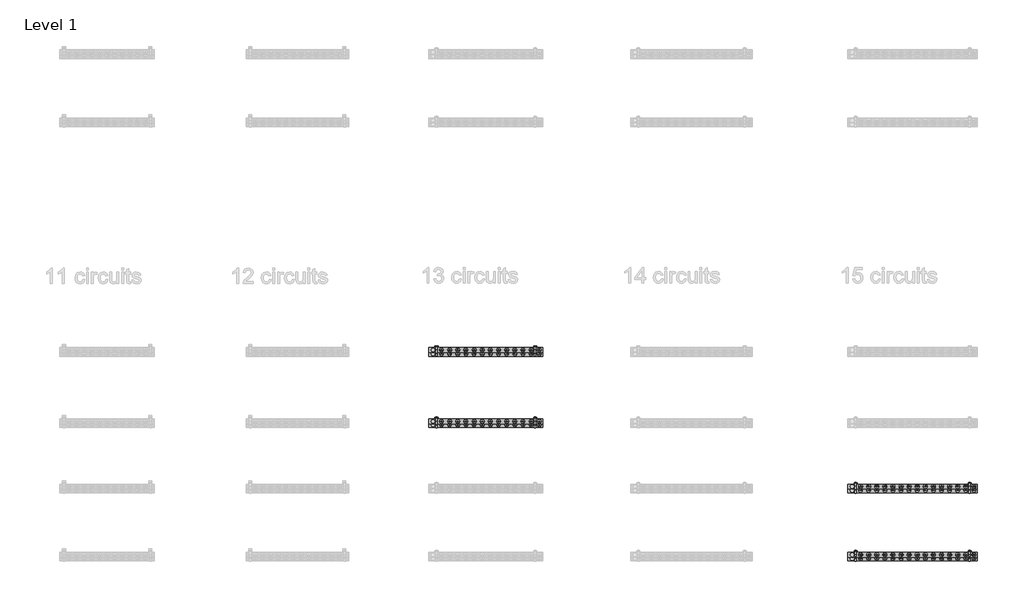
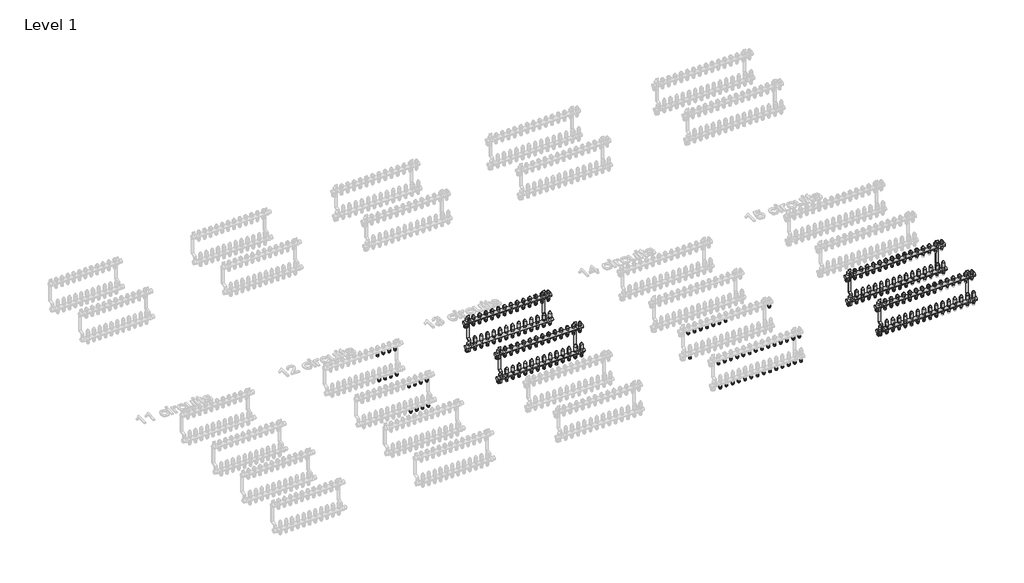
# One storey, part 6 of 23: 141 pipe fittings, 4 valves.
"""IFC4 building model written with IfcOpenShell, lengths in millimetres."""

from ifc_helpers import new_model, si_unit, origin, place, context, project, spatial, transform, mapped, element, save
from components import pipe_fitting_03c6499f, valve_cb73cf64, valve_9b29a5eb, valve_b9f81a7f, valve_96d576d6, valve_c563ffe1, valve_e7cc262d, valve_94d66b99, valve_c404d8d8

model = new_model("IFC4")

# Units and contexts
model_context = context("Model", 3, world=origin())
ifc_project = project(units=[si_unit("LENGTHUNIT", "METRE", prefix="MILLI")], contexts=[model_context])

# Site, building, storey
site = spatial("IfcSite", under=ifc_project)
building = spatial("IfcBuilding", under=site)
storey = spatial("IfcBuildingStorey", under=building, Name="Level 1", Elevation=0.0)

# Pipe fittings
placement = place(None, origin())
pipe_fitting_shape = pipe_fitting_03c6499f(model_context)
element("IfcPipeFitting", 1, ObjectType="Euroconus screwing for multilayer pipes - Manifold FT : Euroconus screwing for multilayer pipes - Manifold FT", at=placement, inside=storey, context=model_context, shape_type="MappedRepresentation", body=[
    mapped(pipe_fitting_shape, transform((12125.7069589, -1164.6959314, 62.88733), x_axis=(0.0, 0.0, -1.0), y_axis=(0.0, 1.0000000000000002, 0.0), z_axis=(1.0000000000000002, 0.0, 0.0))),
])
element("IfcPipeFitting", 2, ObjectType="Euroconus screwing for multilayer pipes - Manifold FT : Euroconus screwing for multilayer pipes - Manifold FT", at=placement, inside=storey, context=model_context, shape_type="MappedRepresentation", body=[
    mapped(pipe_fitting_shape, transform((12076.4342316, -1164.6959314, 62.88733), x_axis=(0.0, 0.0, -1.0), y_axis=(0.0, 1.0000000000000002, 0.0), z_axis=(1.0000000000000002, 0.0, 0.0))),
])
element("IfcPipeFitting", 3, ObjectType="Euroconus screwing for multilayer pipes - Manifold FT : Euroconus screwing for multilayer pipes - Manifold FT", at=placement, inside=storey, context=model_context, shape_type="MappedRepresentation", body=[
    mapped(pipe_fitting_shape, transform((12027.1615043, -1164.6959314, 62.88733), x_axis=(0.0, 0.0, -1.0), y_axis=(0.0, 1.0000000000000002, 0.0), z_axis=(1.0000000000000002, 0.0, 0.0))),
])
element("IfcPipeFitting", 4, ObjectType="Euroconus screwing for multilayer pipes - Manifold FT : Euroconus screwing for multilayer pipes - Manifold FT", at=placement, inside=storey, context=model_context, shape_type="MappedRepresentation", body=[
    mapped(pipe_fitting_shape, transform((12174.9796862, -1164.6959314, 62.88733), x_axis=(0.0, 0.0, -1.0), y_axis=(0.0, 1.0000000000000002, 0.0), z_axis=(1.0000000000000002, 0.0, 0.0))),
])
element("IfcPipeFitting", 5, ObjectType="Euroconus screwing for multilayer pipes - Manifold FT : Euroconus screwing for multilayer pipes - Manifold FT", at=placement, inside=storey, context=model_context, shape_type="MappedRepresentation", body=[
    mapped(pipe_fitting_shape, transform((12125.7069589, -1139.6959314, 272.88733), x_axis=(0.0, 0.0, -1.0), y_axis=(0.0, 1.0000000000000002, 0.0), z_axis=(1.0000000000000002, 0.0, 0.0))),
])
element("IfcPipeFitting", 6, ObjectType="Euroconus screwing for multilayer pipes - Manifold FT : Euroconus screwing for multilayer pipes - Manifold FT", at=placement, inside=storey, context=model_context, shape_type="MappedRepresentation", body=[
    mapped(pipe_fitting_shape, transform((12076.4342316, -1139.6959314, 272.88733), x_axis=(0.0, 0.0, -1.0), y_axis=(0.0, 1.0000000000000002, 0.0), z_axis=(1.0000000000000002, 0.0, 0.0))),
])
element("IfcPipeFitting", 7, ObjectType="Euroconus screwing for multilayer pipes - Manifold FT : Euroconus screwing for multilayer pipes - Manifold FT", at=placement, inside=storey, context=model_context, shape_type="MappedRepresentation", body=[
    mapped(pipe_fitting_shape, transform((12027.1615043, -1139.6959314, 272.88733), x_axis=(0.0, 0.0, -1.0), y_axis=(0.0, 1.0000000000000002, 0.0), z_axis=(1.0000000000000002, 0.0, 0.0))),
])
element("IfcPipeFitting", 8, ObjectType="Euroconus screwing for multilayer pipes - Manifold FT : Euroconus screwing for multilayer pipes - Manifold FT", at=placement, inside=storey, context=model_context, shape_type="MappedRepresentation", body=[
    mapped(pipe_fitting_shape, transform((12174.9796862, -1139.6959314, 272.88733), x_axis=(0.0, 0.0, -1.0), y_axis=(0.0, 1.0000000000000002, 0.0), z_axis=(1.0000000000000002, 0.0, 0.0))),
])
element("IfcPipeFitting", 9, ObjectType="Euroconus screwing for multilayer pipes - Manifold FT : Euroconus screwing for multilayer pipes - Manifold FT", at=placement, inside=storey, context=model_context, shape_type="MappedRepresentation", body=[
    mapped(pipe_fitting_shape, transform((13410.4796862, -1164.6959314, 62.88733), x_axis=(0.0, 0.0, -1.0), y_axis=(0.0, 1.0000000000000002, 0.0), z_axis=(1.0000000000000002, 0.0, 0.0))),
])
element("IfcPipeFitting", 10, ObjectType="Euroconus screwing for multilayer pipes - Manifold FT : Euroconus screwing for multilayer pipes - Manifold FT", at=placement, inside=storey, context=model_context, shape_type="MappedRepresentation", body=[
    mapped(pipe_fitting_shape, transform((13357.9796862, -1164.6959314, 62.88733), x_axis=(0.0, 0.0, -1.0), y_axis=(0.0, 1.0000000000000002, 0.0), z_axis=(1.0000000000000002, 0.0, 0.0))),
])
element("IfcPipeFitting", 11, ObjectType="Euroconus screwing for multilayer pipes - Manifold FT : Euroconus screwing for multilayer pipes - Manifold FT", at=placement, inside=storey, context=model_context, shape_type="MappedRepresentation", body=[
    mapped(pipe_fitting_shape, transform((13305.4796862, -1164.6959314, 62.88733), x_axis=(0.0, 0.0, -1.0), y_axis=(0.0, 1.0000000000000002, 0.0), z_axis=(1.0000000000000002, 0.0, 0.0))),
])
element("IfcPipeFitting", 12, ObjectType="Euroconus screwing for multilayer pipes - Manifold FT : Euroconus screwing for multilayer pipes - Manifold FT", at=placement, inside=storey, context=model_context, shape_type="MappedRepresentation", body=[
    mapped(pipe_fitting_shape, transform((13252.9796862, -1164.6959314, 62.88733), x_axis=(0.0, 0.0, -1.0), y_axis=(0.0, 1.0000000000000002, 0.0), z_axis=(1.0000000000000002, 0.0, 0.0))),
])
element("IfcPipeFitting", 13, ObjectType="Euroconus screwing for multilayer pipes - Manifold FT : Euroconus screwing for multilayer pipes - Manifold FT", at=placement, inside=storey, context=model_context, shape_type="MappedRepresentation", body=[
    mapped(pipe_fitting_shape, transform((13200.4796862, -1164.6959314, 62.88733), x_axis=(0.0, 0.0, -1.0), y_axis=(0.0, 1.0000000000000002, 0.0), z_axis=(1.0000000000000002, 0.0, 0.0))),
])
element("IfcPipeFitting", 14, ObjectType="Euroconus screwing for multilayer pipes - Manifold FT : Euroconus screwing for multilayer pipes - Manifold FT", at=placement, inside=storey, context=model_context, shape_type="MappedRepresentation", body=[
    mapped(pipe_fitting_shape, transform((13147.9796862, -1164.6959314, 62.88733), x_axis=(0.0, 0.0, -1.0), y_axis=(0.0, 1.0000000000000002, 0.0), z_axis=(1.0000000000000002, 0.0, 0.0))),
])
element("IfcPipeFitting", 15, ObjectType="Euroconus screwing for multilayer pipes - Manifold FT : Euroconus screwing for multilayer pipes - Manifold FT", at=placement, inside=storey, context=model_context, shape_type="MappedRepresentation", body=[
    mapped(pipe_fitting_shape, transform((13095.4796862, -1164.6959314, 62.88733), x_axis=(0.0, 0.0, -1.0), y_axis=(0.0, 1.0000000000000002, 0.0), z_axis=(1.0000000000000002, 0.0, 0.0))),
])
element("IfcPipeFitting", 16, ObjectType="Euroconus screwing for multilayer pipes - Manifold FT : Euroconus screwing for multilayer pipes - Manifold FT", at=placement, inside=storey, context=model_context, shape_type="MappedRepresentation", body=[
    mapped(pipe_fitting_shape, transform((13042.9796862, -1164.6959314, 62.88733), x_axis=(0.0, 0.0, -1.0), y_axis=(0.0, 1.0000000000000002, 0.0), z_axis=(1.0000000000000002, 0.0, 0.0))),
])
element("IfcPipeFitting", 17, ObjectType="Euroconus screwing for multilayer pipes - Manifold FT : Euroconus screwing for multilayer pipes - Manifold FT", at=placement, inside=storey, context=model_context, shape_type="MappedRepresentation", body=[
    mapped(pipe_fitting_shape, transform((12990.4796862, -1164.6959314, 62.88733), x_axis=(0.0, 0.0, -1.0), y_axis=(0.0, 1.0000000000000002, 0.0), z_axis=(1.0000000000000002, 0.0, 0.0))),
])
element("IfcPipeFitting", 18, ObjectType="Euroconus screwing for multilayer pipes - Manifold FT : Euroconus screwing for multilayer pipes - Manifold FT", at=placement, inside=storey, context=model_context, shape_type="MappedRepresentation", body=[
    mapped(pipe_fitting_shape, transform((12937.9796862, -1164.6959314, 62.88733), x_axis=(0.0, 0.0, -1.0), y_axis=(0.0, 1.0000000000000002, 0.0), z_axis=(1.0000000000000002, 0.0, 0.0))),
])
element("IfcPipeFitting", 19, ObjectType="Euroconus screwing for multilayer pipes - Manifold FT : Euroconus screwing for multilayer pipes - Manifold FT", at=placement, inside=storey, context=model_context, shape_type="MappedRepresentation", body=[
    mapped(pipe_fitting_shape, transform((12885.4796862, -1164.6959314, 62.88733), x_axis=(0.0, 0.0, -1.0), y_axis=(0.0, 1.0000000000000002, 0.0), z_axis=(1.0000000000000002, 0.0, 0.0))),
])
element("IfcPipeFitting", 20, ObjectType="Euroconus screwing for multilayer pipes - Manifold FT : Euroconus screwing for multilayer pipes - Manifold FT", at=placement, inside=storey, context=model_context, shape_type="MappedRepresentation", body=[
    mapped(pipe_fitting_shape, transform((13462.9796862, -1164.6959314, 62.88733), x_axis=(0.0, 0.0, -1.0), y_axis=(0.0, 1.0000000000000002, 0.0), z_axis=(1.0000000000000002, 0.0, 0.0))),
])
element("IfcPipeFitting", 21, ObjectType="Euroconus screwing for multilayer pipes - Manifold FT : Euroconus screwing for multilayer pipes - Manifold FT", at=placement, inside=storey, context=model_context, shape_type="MappedRepresentation", body=[
    mapped(pipe_fitting_shape, transform((13410.4796862, -1139.6959314, 262.88733), x_axis=(0.0, 0.0, -1.0), y_axis=(0.0, 1.0000000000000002, 0.0), z_axis=(1.0000000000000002, 0.0, 0.0))),
])
element("IfcPipeFitting", 22, ObjectType="Euroconus screwing for multilayer pipes - Manifold FT : Euroconus screwing for multilayer pipes - Manifold FT", at=placement, inside=storey, context=model_context, shape_type="MappedRepresentation", body=[
    mapped(pipe_fitting_shape, transform((13357.9796862, -1139.6959314, 262.88733), x_axis=(0.0, 0.0, -1.0), y_axis=(0.0, 1.0000000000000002, 0.0), z_axis=(1.0000000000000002, 0.0, 0.0))),
])
element("IfcPipeFitting", 23, ObjectType="Euroconus screwing for multilayer pipes - Manifold FT : Euroconus screwing for multilayer pipes - Manifold FT", at=placement, inside=storey, context=model_context, shape_type="MappedRepresentation", body=[
    mapped(pipe_fitting_shape, transform((13305.4796862, -1139.6959314, 262.88733), x_axis=(0.0, 0.0, -1.0), y_axis=(0.0, 1.0000000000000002, 0.0), z_axis=(1.0000000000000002, 0.0, 0.0))),
])
element("IfcPipeFitting", 24, ObjectType="Euroconus screwing for multilayer pipes - Manifold FT : Euroconus screwing for multilayer pipes - Manifold FT", at=placement, inside=storey, context=model_context, shape_type="MappedRepresentation", body=[
    mapped(pipe_fitting_shape, transform((13252.9796862, -1139.6959314, 262.88733), x_axis=(0.0, 0.0, -1.0), y_axis=(0.0, 1.0000000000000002, 0.0), z_axis=(1.0000000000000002, 0.0, 0.0))),
])
element("IfcPipeFitting", 25, ObjectType="Euroconus screwing for multilayer pipes - Manifold FT : Euroconus screwing for multilayer pipes - Manifold FT", at=placement, inside=storey, context=model_context, shape_type="MappedRepresentation", body=[
    mapped(pipe_fitting_shape, transform((13200.4796862, -1139.6959314, 262.88733), x_axis=(0.0, 0.0, -1.0), y_axis=(0.0, 1.0000000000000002, 0.0), z_axis=(1.0000000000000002, 0.0, 0.0))),
])
element("IfcPipeFitting", 26, ObjectType="Euroconus screwing for multilayer pipes - Manifold FT : Euroconus screwing for multilayer pipes - Manifold FT", at=placement, inside=storey, context=model_context, shape_type="MappedRepresentation", body=[
    mapped(pipe_fitting_shape, transform((13147.9796862, -1139.6959314, 262.88733), x_axis=(0.0, 0.0, -1.0), y_axis=(0.0, 1.0000000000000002, 0.0), z_axis=(1.0000000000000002, 0.0, 0.0))),
])
element("IfcPipeFitting", 27, ObjectType="Euroconus screwing for multilayer pipes - Manifold FT : Euroconus screwing for multilayer pipes - Manifold FT", at=placement, inside=storey, context=model_context, shape_type="MappedRepresentation", body=[
    mapped(pipe_fitting_shape, transform((13095.4796862, -1139.6959314, 262.88733), x_axis=(0.0, 0.0, -1.0), y_axis=(0.0, 1.0000000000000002, 0.0), z_axis=(1.0000000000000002, 0.0, 0.0))),
])
element("IfcPipeFitting", 28, ObjectType="Euroconus screwing for multilayer pipes - Manifold FT : Euroconus screwing for multilayer pipes - Manifold FT", at=placement, inside=storey, context=model_context, shape_type="MappedRepresentation", body=[
    mapped(pipe_fitting_shape, transform((13042.9796862, -1139.6959314, 262.88733), x_axis=(0.0, 0.0, -1.0), y_axis=(0.0, 1.0000000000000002, 0.0), z_axis=(1.0000000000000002, 0.0, 0.0))),
])
element("IfcPipeFitting", 29, ObjectType="Euroconus screwing for multilayer pipes - Manifold FT : Euroconus screwing for multilayer pipes - Manifold FT", at=placement, inside=storey, context=model_context, shape_type="MappedRepresentation", body=[
    mapped(pipe_fitting_shape, transform((12990.4796862, -1139.6959314, 262.88733), x_axis=(0.0, 0.0, -1.0), y_axis=(0.0, 1.0000000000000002, 0.0), z_axis=(1.0000000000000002, 0.0, 0.0))),
])
element("IfcPipeFitting", 30, ObjectType="Euroconus screwing for multilayer pipes - Manifold FT : Euroconus screwing for multilayer pipes - Manifold FT", at=placement, inside=storey, context=model_context, shape_type="MappedRepresentation", body=[
    mapped(pipe_fitting_shape, transform((12937.9796862, -1139.6959314, 262.88733), x_axis=(0.0, 0.0, -1.0), y_axis=(0.0, 1.0000000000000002, 0.0), z_axis=(1.0000000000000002, 0.0, 0.0))),
])
element("IfcPipeFitting", 31, ObjectType="Euroconus screwing for multilayer pipes - Manifold FT : Euroconus screwing for multilayer pipes - Manifold FT", at=placement, inside=storey, context=model_context, shape_type="MappedRepresentation", body=[
    mapped(pipe_fitting_shape, transform((12885.4796862, -1139.6959314, 262.88733), x_axis=(0.0, 0.0, -1.0), y_axis=(0.0, 1.0000000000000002, 0.0), z_axis=(1.0000000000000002, 0.0, 0.0))),
])
element("IfcPipeFitting", 32, ObjectType="Euroconus screwing for multilayer pipes - Manifold FT : Euroconus screwing for multilayer pipes - Manifold FT", at=placement, inside=storey, context=model_context, shape_type="MappedRepresentation", body=[
    mapped(pipe_fitting_shape, transform((13462.9796862, -1139.6959314, 262.88733), x_axis=(0.0, 0.0, -1.0), y_axis=(0.0, 1.0000000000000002, 0.0), z_axis=(1.0000000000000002, 0.0, 0.0))),
])
element("IfcPipeFitting", 33, ObjectType="Euroconus screwing for multilayer pipes - Manifold FT : Euroconus screwing for multilayer pipes - Manifold FT", at=placement, inside=storey, context=model_context, shape_type="MappedRepresentation", body=[
    mapped(pipe_fitting_shape, transform((12832.9796862, -1164.6959314, 62.88733), x_axis=(0.0, 0.0, -1.0), y_axis=(0.0, 1.0000000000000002, 0.0), z_axis=(1.0000000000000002, 0.0, 0.0))),
])
element("IfcPipeFitting", 34, ObjectType="Euroconus screwing for multilayer pipes - Manifold FT : Euroconus screwing for multilayer pipes - Manifold FT", at=placement, inside=storey, context=model_context, shape_type="MappedRepresentation", body=[
    mapped(pipe_fitting_shape, transform((12832.9796862, -1139.6959314, 262.88733), x_axis=(0.0, 0.0, -1.0), y_axis=(0.0, 1.0000000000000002, 0.0), z_axis=(1.0000000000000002, 0.0, 0.0))),
])
element("IfcPipeFitting", 35, ObjectType="Euroconus screwing for multilayer pipes - Manifold FT : Euroconus screwing for multilayer pipes - Manifold FT", at=placement, inside=storey, context=model_context, shape_type="MappedRepresentation", body=[
    mapped(pipe_fitting_shape, transform((12125.7069589, -1624.6959314, 62.88733), x_axis=(0.0, 0.0, -1.0), y_axis=(0.0, 1.0000000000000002, 0.0), z_axis=(1.0000000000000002, 0.0, 0.0))),
])
element("IfcPipeFitting", 36, ObjectType="Euroconus screwing for multilayer pipes - Manifold FT : Euroconus screwing for multilayer pipes - Manifold FT", at=placement, inside=storey, context=model_context, shape_type="MappedRepresentation", body=[
    mapped(pipe_fitting_shape, transform((12076.4342316, -1624.6959314, 62.88733), x_axis=(0.0, 0.0, -1.0), y_axis=(0.0, 1.0000000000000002, 0.0), z_axis=(1.0000000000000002, 0.0, 0.0))),
])
element("IfcPipeFitting", 37, ObjectType="Euroconus screwing for multilayer pipes - Manifold FT : Euroconus screwing for multilayer pipes - Manifold FT", at=placement, inside=storey, context=model_context, shape_type="MappedRepresentation", body=[
    mapped(pipe_fitting_shape, transform((12027.1615043, -1624.6959314, 62.88733), x_axis=(0.0, 0.0, -1.0), y_axis=(0.0, 1.0000000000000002, 0.0), z_axis=(1.0000000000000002, 0.0, 0.0))),
])
element("IfcPipeFitting", 38, ObjectType="Euroconus screwing for multilayer pipes - Manifold FT : Euroconus screwing for multilayer pipes - Manifold FT", at=placement, inside=storey, context=model_context, shape_type="MappedRepresentation", body=[
    mapped(pipe_fitting_shape, transform((12174.9796862, -1624.6959314, 62.88733), x_axis=(0.0, 0.0, -1.0), y_axis=(0.0, 1.0000000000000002, 0.0), z_axis=(1.0000000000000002, 0.0, 0.0))),
])
element("IfcPipeFitting", 39, ObjectType="Euroconus screwing for multilayer pipes - Manifold FT : Euroconus screwing for multilayer pipes - Manifold FT", at=placement, inside=storey, context=model_context, shape_type="MappedRepresentation", body=[
    mapped(pipe_fitting_shape, transform((12125.7069589, -1599.6959314, 272.88733), x_axis=(0.0, 0.0, -1.0), y_axis=(0.0, 1.0000000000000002, 0.0), z_axis=(1.0000000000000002, 0.0, 0.0))),
])
element("IfcPipeFitting", 40, ObjectType="Euroconus screwing for multilayer pipes - Manifold FT : Euroconus screwing for multilayer pipes - Manifold FT", at=placement, inside=storey, context=model_context, shape_type="MappedRepresentation", body=[
    mapped(pipe_fitting_shape, transform((12076.4342316, -1599.6959314, 272.88733), x_axis=(0.0, 0.0, -1.0), y_axis=(0.0, 1.0000000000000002, 0.0), z_axis=(1.0000000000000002, 0.0, 0.0))),
])
element("IfcPipeFitting", 41, ObjectType="Euroconus screwing for multilayer pipes - Manifold FT : Euroconus screwing for multilayer pipes - Manifold FT", at=placement, inside=storey, context=model_context, shape_type="MappedRepresentation", body=[
    mapped(pipe_fitting_shape, transform((12027.1615043, -1599.6959314, 272.88733), x_axis=(0.0, 0.0, -1.0), y_axis=(0.0, 1.0000000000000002, 0.0), z_axis=(1.0000000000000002, 0.0, 0.0))),
])
element("IfcPipeFitting", 42, ObjectType="Euroconus screwing for multilayer pipes - Manifold FT : Euroconus screwing for multilayer pipes - Manifold FT", at=placement, inside=storey, context=model_context, shape_type="MappedRepresentation", body=[
    mapped(pipe_fitting_shape, transform((12174.9796862, -1599.6959314, 272.88733), x_axis=(0.0, 0.0, -1.0), y_axis=(0.0, 1.0000000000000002, 0.0), z_axis=(1.0000000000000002, 0.0, 0.0))),
])
element("IfcPipeFitting", 43, ObjectType="Euroconus screwing for multilayer pipes - Manifold FT : Euroconus screwing for multilayer pipes - Manifold FT", at=placement, inside=storey, context=model_context, shape_type="MappedRepresentation", body=[
    mapped(pipe_fitting_shape, transform((13410.4796862, -1624.6959314, 62.88733), x_axis=(0.0, 0.0, -1.0), y_axis=(0.0, 1.0000000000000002, 0.0), z_axis=(1.0000000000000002, 0.0, 0.0))),
])
element("IfcPipeFitting", 44, ObjectType="Euroconus screwing for multilayer pipes - Manifold FT : Euroconus screwing for multilayer pipes - Manifold FT", at=placement, inside=storey, context=model_context, shape_type="MappedRepresentation", body=[
    mapped(pipe_fitting_shape, transform((13357.9796862, -1624.6959314, 62.88733), x_axis=(0.0, 0.0, -1.0), y_axis=(0.0, 1.0000000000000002, 0.0), z_axis=(1.0000000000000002, 0.0, 0.0))),
])
element("IfcPipeFitting", 45, ObjectType="Euroconus screwing for multilayer pipes - Manifold FT : Euroconus screwing for multilayer pipes - Manifold FT", at=placement, inside=storey, context=model_context, shape_type="MappedRepresentation", body=[
    mapped(pipe_fitting_shape, transform((13305.4796862, -1624.6959314, 62.88733), x_axis=(0.0, 0.0, -1.0), y_axis=(0.0, 1.0000000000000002, 0.0), z_axis=(1.0000000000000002, 0.0, 0.0))),
])
element("IfcPipeFitting", 46, ObjectType="Euroconus screwing for multilayer pipes - Manifold FT : Euroconus screwing for multilayer pipes - Manifold FT", at=placement, inside=storey, context=model_context, shape_type="MappedRepresentation", body=[
    mapped(pipe_fitting_shape, transform((13252.9796862, -1624.6959314, 62.88733), x_axis=(0.0, 0.0, -1.0), y_axis=(0.0, 1.0000000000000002, 0.0), z_axis=(1.0000000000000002, 0.0, 0.0))),
])
element("IfcPipeFitting", 47, ObjectType="Euroconus screwing for multilayer pipes - Manifold FT : Euroconus screwing for multilayer pipes - Manifold FT", at=placement, inside=storey, context=model_context, shape_type="MappedRepresentation", body=[
    mapped(pipe_fitting_shape, transform((13200.4796862, -1624.6959314, 62.88733), x_axis=(0.0, 0.0, -1.0), y_axis=(0.0, 1.0000000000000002, 0.0), z_axis=(1.0000000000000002, 0.0, 0.0))),
])
element("IfcPipeFitting", 48, ObjectType="Euroconus screwing for multilayer pipes - Manifold FT : Euroconus screwing for multilayer pipes - Manifold FT", at=placement, inside=storey, context=model_context, shape_type="MappedRepresentation", body=[
    mapped(pipe_fitting_shape, transform((13147.9796862, -1624.6959314, 62.88733), x_axis=(0.0, 0.0, -1.0), y_axis=(0.0, 1.0000000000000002, 0.0), z_axis=(1.0000000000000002, 0.0, 0.0))),
])
element("IfcPipeFitting", 49, ObjectType="Euroconus screwing for multilayer pipes - Manifold FT : Euroconus screwing for multilayer pipes - Manifold FT", at=placement, inside=storey, context=model_context, shape_type="MappedRepresentation", body=[
    mapped(pipe_fitting_shape, transform((13095.4796862, -1624.6959314, 62.88733), x_axis=(0.0, 0.0, -1.0), y_axis=(0.0, 1.0000000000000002, 0.0), z_axis=(1.0000000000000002, 0.0, 0.0))),
])
element("IfcPipeFitting", 50, ObjectType="Euroconus screwing for multilayer pipes - Manifold FT : Euroconus screwing for multilayer pipes - Manifold FT", at=placement, inside=storey, context=model_context, shape_type="MappedRepresentation", body=[
    mapped(pipe_fitting_shape, transform((13042.9796862, -1624.6959314, 62.88733), x_axis=(0.0, 0.0, -1.0), y_axis=(0.0, 1.0000000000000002, 0.0), z_axis=(1.0000000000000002, 0.0, 0.0))),
])
element("IfcPipeFitting", 51, ObjectType="Euroconus screwing for multilayer pipes - Manifold FT : Euroconus screwing for multilayer pipes - Manifold FT", at=placement, inside=storey, context=model_context, shape_type="MappedRepresentation", body=[
    mapped(pipe_fitting_shape, transform((12990.4796862, -1624.6959314, 62.88733), x_axis=(0.0, 0.0, -1.0), y_axis=(0.0, 1.0000000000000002, 0.0), z_axis=(1.0000000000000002, 0.0, 0.0))),
])
element("IfcPipeFitting", 52, ObjectType="Euroconus screwing for multilayer pipes - Manifold FT : Euroconus screwing for multilayer pipes - Manifold FT", at=placement, inside=storey, context=model_context, shape_type="MappedRepresentation", body=[
    mapped(pipe_fitting_shape, transform((12937.9796862, -1624.6959314, 62.88733), x_axis=(0.0, 0.0, -1.0), y_axis=(0.0, 1.0000000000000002, 0.0), z_axis=(1.0000000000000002, 0.0, 0.0))),
])
element("IfcPipeFitting", 53, ObjectType="Euroconus screwing for multilayer pipes - Manifold FT : Euroconus screwing for multilayer pipes - Manifold FT", at=placement, inside=storey, context=model_context, shape_type="MappedRepresentation", body=[
    mapped(pipe_fitting_shape, transform((12885.4796862, -1624.6959314, 62.88733), x_axis=(0.0, 0.0, -1.0), y_axis=(0.0, 1.0000000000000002, 0.0), z_axis=(1.0000000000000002, 0.0, 0.0))),
])
element("IfcPipeFitting", 54, ObjectType="Euroconus screwing for multilayer pipes - Manifold FT : Euroconus screwing for multilayer pipes - Manifold FT", at=placement, inside=storey, context=model_context, shape_type="MappedRepresentation", body=[
    mapped(pipe_fitting_shape, transform((13462.9796862, -1624.6959314, 62.88733), x_axis=(0.0, 0.0, -1.0), y_axis=(0.0, 1.0000000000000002, 0.0), z_axis=(1.0000000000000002, 0.0, 0.0))),
])
element("IfcPipeFitting", 55, ObjectType="Euroconus screwing for multilayer pipes - Manifold FT : Euroconus screwing for multilayer pipes - Manifold FT", at=placement, inside=storey, context=model_context, shape_type="MappedRepresentation", body=[
    mapped(pipe_fitting_shape, transform((13410.4796862, -1599.6959314, 262.88733), x_axis=(0.0, 0.0, -1.0), y_axis=(0.0, 1.0000000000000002, 0.0), z_axis=(1.0000000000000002, 0.0, 0.0))),
])
element("IfcPipeFitting", 56, ObjectType="Euroconus screwing for multilayer pipes - Manifold FT : Euroconus screwing for multilayer pipes - Manifold FT", at=placement, inside=storey, context=model_context, shape_type="MappedRepresentation", body=[
    mapped(pipe_fitting_shape, transform((13357.9796862, -1599.6959314, 262.88733), x_axis=(0.0, 0.0, -1.0), y_axis=(0.0, 1.0000000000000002, 0.0), z_axis=(1.0000000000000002, 0.0, 0.0))),
])
element("IfcPipeFitting", 57, ObjectType="Euroconus screwing for multilayer pipes - Manifold FT : Euroconus screwing for multilayer pipes - Manifold FT", at=placement, inside=storey, context=model_context, shape_type="MappedRepresentation", body=[
    mapped(pipe_fitting_shape, transform((13305.4796862, -1599.6959314, 262.88733), x_axis=(0.0, 0.0, -1.0), y_axis=(0.0, 1.0000000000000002, 0.0), z_axis=(1.0000000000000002, 0.0, 0.0))),
])
element("IfcPipeFitting", 58, ObjectType="Euroconus screwing for multilayer pipes - Manifold FT : Euroconus screwing for multilayer pipes - Manifold FT", at=placement, inside=storey, context=model_context, shape_type="MappedRepresentation", body=[
    mapped(pipe_fitting_shape, transform((13252.9796862, -1599.6959314, 262.88733), x_axis=(0.0, 0.0, -1.0), y_axis=(0.0, 1.0000000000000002, 0.0), z_axis=(1.0000000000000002, 0.0, 0.0))),
])
element("IfcPipeFitting", 59, ObjectType="Euroconus screwing for multilayer pipes - Manifold FT : Euroconus screwing for multilayer pipes - Manifold FT", at=placement, inside=storey, context=model_context, shape_type="MappedRepresentation", body=[
    mapped(pipe_fitting_shape, transform((13200.4796862, -1599.6959314, 262.88733), x_axis=(0.0, 0.0, -1.0), y_axis=(0.0, 1.0000000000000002, 0.0), z_axis=(1.0000000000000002, 0.0, 0.0))),
])
element("IfcPipeFitting", 60, ObjectType="Euroconus screwing for multilayer pipes - Manifold FT : Euroconus screwing for multilayer pipes - Manifold FT", at=placement, inside=storey, context=model_context, shape_type="MappedRepresentation", body=[
    mapped(pipe_fitting_shape, transform((13147.9796862, -1599.6959314, 262.88733), x_axis=(0.0, 0.0, -1.0), y_axis=(0.0, 1.0000000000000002, 0.0), z_axis=(1.0000000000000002, 0.0, 0.0))),
])
element("IfcPipeFitting", 61, ObjectType="Euroconus screwing for multilayer pipes - Manifold FT : Euroconus screwing for multilayer pipes - Manifold FT", at=placement, inside=storey, context=model_context, shape_type="MappedRepresentation", body=[
    mapped(pipe_fitting_shape, transform((13095.4796862, -1599.6959314, 262.88733), x_axis=(0.0, 0.0, -1.0), y_axis=(0.0, 1.0000000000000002, 0.0), z_axis=(1.0000000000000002, 0.0, 0.0))),
])
element("IfcPipeFitting", 62, ObjectType="Euroconus screwing for multilayer pipes - Manifold FT : Euroconus screwing for multilayer pipes - Manifold FT", at=placement, inside=storey, context=model_context, shape_type="MappedRepresentation", body=[
    mapped(pipe_fitting_shape, transform((13042.9796862, -1599.6959314, 262.88733), x_axis=(0.0, 0.0, -1.0), y_axis=(0.0, 1.0000000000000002, 0.0), z_axis=(1.0000000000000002, 0.0, 0.0))),
])
element("IfcPipeFitting", 63, ObjectType="Euroconus screwing for multilayer pipes - Manifold FT : Euroconus screwing for multilayer pipes - Manifold FT", at=placement, inside=storey, context=model_context, shape_type="MappedRepresentation", body=[
    mapped(pipe_fitting_shape, transform((12990.4796862, -1599.6959314, 262.88733), x_axis=(0.0, 0.0, -1.0), y_axis=(0.0, 1.0000000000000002, 0.0), z_axis=(1.0000000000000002, 0.0, 0.0))),
])
element("IfcPipeFitting", 64, ObjectType="Euroconus screwing for multilayer pipes - Manifold FT : Euroconus screwing for multilayer pipes - Manifold FT", at=placement, inside=storey, context=model_context, shape_type="MappedRepresentation", body=[
    mapped(pipe_fitting_shape, transform((12937.9796862, -1599.6959314, 262.88733), x_axis=(0.0, 0.0, -1.0), y_axis=(0.0, 1.0000000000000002, 0.0), z_axis=(1.0000000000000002, 0.0, 0.0))),
])
element("IfcPipeFitting", 65, ObjectType="Euroconus screwing for multilayer pipes - Manifold FT : Euroconus screwing for multilayer pipes - Manifold FT", at=placement, inside=storey, context=model_context, shape_type="MappedRepresentation", body=[
    mapped(pipe_fitting_shape, transform((12885.4796862, -1599.6959314, 262.88733), x_axis=(0.0, 0.0, -1.0), y_axis=(0.0, 1.0000000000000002, 0.0), z_axis=(1.0000000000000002, 0.0, 0.0))),
])
element("IfcPipeFitting", 66, ObjectType="Euroconus screwing for multilayer pipes - Manifold FT : Euroconus screwing for multilayer pipes - Manifold FT", at=placement, inside=storey, context=model_context, shape_type="MappedRepresentation", body=[
    mapped(pipe_fitting_shape, transform((13462.9796862, -1599.6959314, 262.88733), x_axis=(0.0, 0.0, -1.0), y_axis=(0.0, 1.0000000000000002, 0.0), z_axis=(1.0000000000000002, 0.0, 0.0))),
])
element("IfcPipeFitting", 67, ObjectType="Euroconus screwing for multilayer pipes - Manifold FT : Euroconus screwing for multilayer pipes - Manifold FT", at=placement, inside=storey, context=model_context, shape_type="MappedRepresentation", body=[
    mapped(pipe_fitting_shape, transform((12832.9796862, -1624.6959314, 62.88733), x_axis=(0.0, 0.0, -1.0), y_axis=(0.0, 1.0000000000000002, 0.0), z_axis=(1.0000000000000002, 0.0, 0.0))),
])
element("IfcPipeFitting", 68, ObjectType="Euroconus screwing for multilayer pipes - Manifold FT : Euroconus screwing for multilayer pipes - Manifold FT", at=placement, inside=storey, context=model_context, shape_type="MappedRepresentation", body=[
    mapped(pipe_fitting_shape, transform((12832.9796862, -1599.6959314, 262.88733), x_axis=(0.0, 0.0, -1.0), y_axis=(0.0, 1.0000000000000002, 0.0), z_axis=(1.0000000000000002, 0.0, 0.0))),
])
element("IfcPipeFitting", 69, ObjectType="Euroconus screwing for multilayer pipes - Manifold FT : Euroconus screwing for multilayer pipes - Manifold FT", at=placement, inside=storey, context=model_context, shape_type="MappedRepresentation", body=[
    mapped(pipe_fitting_shape, transform((14446.82584, -2019.6959314, 262.88733), x_axis=(0.0, 0.0, -1.0), y_axis=(0.0, 1.0000000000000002, 0.0), z_axis=(1.0000000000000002, 0.0, 0.0))),
])
element("IfcPipeFitting", 70, ObjectType="Euroconus screwing for multilayer pipes - Manifold FT : Euroconus screwing for multilayer pipes - Manifold FT", at=placement, inside=storey, context=model_context, shape_type="MappedRepresentation", body=[
    mapped(pipe_fitting_shape, transform((14394.5181477, -2019.6959314, 262.88733), x_axis=(0.0, 0.0, -1.0), y_axis=(0.0, 1.0000000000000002, 0.0), z_axis=(1.0000000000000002, 0.0, 0.0))),
])
element("IfcPipeFitting", 71, ObjectType="Euroconus screwing for multilayer pipes - Manifold FT : Euroconus screwing for multilayer pipes - Manifold FT", at=placement, inside=storey, context=model_context, shape_type="MappedRepresentation", body=[
    mapped(pipe_fitting_shape, transform((14342.2104554, -2019.6959314, 262.88733), x_axis=(0.0, 0.0, -1.0), y_axis=(0.0, 1.0000000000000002, 0.0), z_axis=(1.0000000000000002, 0.0, 0.0))),
])
element("IfcPipeFitting", 72, ObjectType="Euroconus screwing for multilayer pipes - Manifold FT : Euroconus screwing for multilayer pipes - Manifold FT", at=placement, inside=storey, context=model_context, shape_type="MappedRepresentation", body=[
    mapped(pipe_fitting_shape, transform((14289.9027631, -2019.6959314, 262.88733), x_axis=(0.0, 0.0, -1.0), y_axis=(0.0, 1.0000000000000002, 0.0), z_axis=(1.0000000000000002, 0.0, 0.0))),
])
element("IfcPipeFitting", 73, ObjectType="Euroconus screwing for multilayer pipes - Manifold FT : Euroconus screwing for multilayer pipes - Manifold FT", at=placement, inside=storey, context=model_context, shape_type="MappedRepresentation", body=[
    mapped(pipe_fitting_shape, transform((14237.5950708, -2019.6959314, 262.88733), x_axis=(0.0, 0.0, -1.0), y_axis=(0.0, 1.0000000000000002, 0.0), z_axis=(1.0000000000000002, 0.0, 0.0))),
])
element("IfcPipeFitting", 74, ObjectType="Euroconus screwing for multilayer pipes - Manifold FT : Euroconus screwing for multilayer pipes - Manifold FT", at=placement, inside=storey, context=model_context, shape_type="MappedRepresentation", body=[
    mapped(pipe_fitting_shape, transform((14185.2873785, -2019.6959314, 262.88733), x_axis=(0.0, 0.0, -1.0), y_axis=(0.0, 1.0000000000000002, 0.0), z_axis=(1.0000000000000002, 0.0, 0.0))),
])
element("IfcPipeFitting", 75, ObjectType="Euroconus screwing for multilayer pipes - Manifold FT : Euroconus screwing for multilayer pipes - Manifold FT", at=placement, inside=storey, context=model_context, shape_type="MappedRepresentation", body=[
    mapped(pipe_fitting_shape, transform((14812.9796862, -2019.6959314, 262.88733), x_axis=(0.0, 0.0, -1.0), y_axis=(0.0, 1.0000000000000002, 0.0), z_axis=(1.0000000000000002, 0.0, 0.0))),
])
element("IfcPipeFitting", 76, ObjectType="Euroconus screwing for multilayer pipes - Manifold FT : Euroconus screwing for multilayer pipes - Manifold FT", at=placement, inside=storey, context=model_context, shape_type="MappedRepresentation", body=[
    mapped(pipe_fitting_shape, transform((14132.9796862, -2044.6959314, 62.88733), x_axis=(0.0, 0.0, -1.0), y_axis=(0.0, 1.0000000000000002, 0.0), z_axis=(1.0000000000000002, 0.0, 0.0))),
])
element("IfcPipeFitting", 77, ObjectType="Euroconus screwing for multilayer pipes - Manifold FT : Euroconus screwing for multilayer pipes - Manifold FT", at=placement, inside=storey, context=model_context, shape_type="MappedRepresentation", body=[
    mapped(pipe_fitting_shape, transform((14132.9796862, -2019.6959314, 262.88733), x_axis=(0.0, 0.0, -1.0), y_axis=(0.0, 1.0000000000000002, 0.0), z_axis=(1.0000000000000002, 0.0, 0.0))),
])
element("IfcPipeFitting", 78, ObjectType="Euroconus screwing for multilayer pipes - Manifold FT : Euroconus screwing for multilayer pipes - Manifold FT", at=placement, inside=storey, context=model_context, shape_type="MappedRepresentation", body=[
    mapped(pipe_fitting_shape, transform((15950.1225433, -2044.6959314, 62.88733), x_axis=(0.0, 0.0, -1.0), y_axis=(0.0, 1.0000000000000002, 0.0), z_axis=(1.0000000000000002, 0.0, 0.0))),
])
element("IfcPipeFitting", 79, ObjectType="Euroconus screwing for multilayer pipes - Manifold FT : Euroconus screwing for multilayer pipes - Manifold FT", at=placement, inside=storey, context=model_context, shape_type="MappedRepresentation", body=[
    mapped(pipe_fitting_shape, transform((15897.9796862, -2044.6959314, 62.88733), x_axis=(0.0, 0.0, -1.0), y_axis=(0.0, 1.0000000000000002, 0.0), z_axis=(1.0000000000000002, 0.0, 0.0))),
])
element("IfcPipeFitting", 80, ObjectType="Euroconus screwing for multilayer pipes - Manifold FT : Euroconus screwing for multilayer pipes - Manifold FT", at=placement, inside=storey, context=model_context, shape_type="MappedRepresentation", body=[
    mapped(pipe_fitting_shape, transform((15845.836829, -2044.6959314, 62.88733), x_axis=(0.0, 0.0, -1.0), y_axis=(0.0, 1.0000000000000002, 0.0), z_axis=(1.0000000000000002, 0.0, 0.0))),
])
element("IfcPipeFitting", 81, ObjectType="Euroconus screwing for multilayer pipes - Manifold FT : Euroconus screwing for multilayer pipes - Manifold FT", at=placement, inside=storey, context=model_context, shape_type="MappedRepresentation", body=[
    mapped(pipe_fitting_shape, transform((15793.6939719, -2044.6959314, 62.88733), x_axis=(0.0, 0.0, -1.0), y_axis=(0.0, 1.0000000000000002, 0.0), z_axis=(1.0000000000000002, 0.0, 0.0))),
])
element("IfcPipeFitting", 82, ObjectType="Euroconus screwing for multilayer pipes - Manifold FT : Euroconus screwing for multilayer pipes - Manifold FT", at=placement, inside=storey, context=model_context, shape_type="MappedRepresentation", body=[
    mapped(pipe_fitting_shape, transform((15741.5511147, -2044.6959314, 62.88733), x_axis=(0.0, 0.0, -1.0), y_axis=(0.0, 1.0000000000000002, 0.0), z_axis=(1.0000000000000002, 0.0, 0.0))),
])
element("IfcPipeFitting", 83, ObjectType="Euroconus screwing for multilayer pipes - Manifold FT : Euroconus screwing for multilayer pipes - Manifold FT", at=placement, inside=storey, context=model_context, shape_type="MappedRepresentation", body=[
    mapped(pipe_fitting_shape, transform((15689.4082576, -2044.6959314, 62.88733), x_axis=(0.0, 0.0, -1.0), y_axis=(0.0, 1.0000000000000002, 0.0), z_axis=(1.0000000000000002, 0.0, 0.0))),
])
element("IfcPipeFitting", 84, ObjectType="Euroconus screwing for multilayer pipes - Manifold FT : Euroconus screwing for multilayer pipes - Manifold FT", at=placement, inside=storey, context=model_context, shape_type="MappedRepresentation", body=[
    mapped(pipe_fitting_shape, transform((15637.2654004, -2044.6959314, 62.88733), x_axis=(0.0, 0.0, -1.0), y_axis=(0.0, 1.0000000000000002, 0.0), z_axis=(1.0000000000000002, 0.0, 0.0))),
])
element("IfcPipeFitting", 85, ObjectType="Euroconus screwing for multilayer pipes - Manifold FT : Euroconus screwing for multilayer pipes - Manifold FT", at=placement, inside=storey, context=model_context, shape_type="MappedRepresentation", body=[
    mapped(pipe_fitting_shape, transform((15585.1225433, -2044.6959314, 62.88733), x_axis=(0.0, 0.0, -1.0), y_axis=(0.0, 1.0000000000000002, 0.0), z_axis=(1.0000000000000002, 0.0, 0.0))),
])
element("IfcPipeFitting", 86, ObjectType="Euroconus screwing for multilayer pipes - Manifold FT : Euroconus screwing for multilayer pipes - Manifold FT", at=placement, inside=storey, context=model_context, shape_type="MappedRepresentation", body=[
    mapped(pipe_fitting_shape, transform((15950.1225433, -2019.6959314, 262.88733), x_axis=(0.0, 0.0, -1.0), y_axis=(0.0, 1.0000000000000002, 0.0), z_axis=(1.0000000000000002, 0.0, 0.0))),
])
element("IfcPipeFitting", 87, ObjectType="Euroconus screwing for multilayer pipes - Manifold FT : Euroconus screwing for multilayer pipes - Manifold FT", at=placement, inside=storey, context=model_context, shape_type="MappedRepresentation", body=[
    mapped(pipe_fitting_shape, transform((15897.9796862, -2019.6959314, 262.88733), x_axis=(0.0, 0.0, -1.0), y_axis=(0.0, 1.0000000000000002, 0.0), z_axis=(1.0000000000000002, 0.0, 0.0))),
])
element("IfcPipeFitting", 88, ObjectType="Euroconus screwing for multilayer pipes - Manifold FT : Euroconus screwing for multilayer pipes - Manifold FT", at=placement, inside=storey, context=model_context, shape_type="MappedRepresentation", body=[
    mapped(pipe_fitting_shape, transform((15845.836829, -2019.6959314, 262.88733), x_axis=(0.0, 0.0, -1.0), y_axis=(0.0, 1.0000000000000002, 0.0), z_axis=(1.0000000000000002, 0.0, 0.0))),
])
element("IfcPipeFitting", 89, ObjectType="Euroconus screwing for multilayer pipes - Manifold FT : Euroconus screwing for multilayer pipes - Manifold FT", at=placement, inside=storey, context=model_context, shape_type="MappedRepresentation", body=[
    mapped(pipe_fitting_shape, transform((15793.6939719, -2019.6959314, 262.88733), x_axis=(0.0, 0.0, -1.0), y_axis=(0.0, 1.0000000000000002, 0.0), z_axis=(1.0000000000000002, 0.0, 0.0))),
])
element("IfcPipeFitting", 90, ObjectType="Euroconus screwing for multilayer pipes - Manifold FT : Euroconus screwing for multilayer pipes - Manifold FT", at=placement, inside=storey, context=model_context, shape_type="MappedRepresentation", body=[
    mapped(pipe_fitting_shape, transform((15741.5511147, -2019.6959314, 262.88733), x_axis=(0.0, 0.0, -1.0), y_axis=(0.0, 1.0000000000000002, 0.0), z_axis=(1.0000000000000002, 0.0, 0.0))),
])
element("IfcPipeFitting", 91, ObjectType="Euroconus screwing for multilayer pipes - Manifold FT : Euroconus screwing for multilayer pipes - Manifold FT", at=placement, inside=storey, context=model_context, shape_type="MappedRepresentation", body=[
    mapped(pipe_fitting_shape, transform((15689.4082576, -2019.6959314, 262.88733), x_axis=(0.0, 0.0, -1.0), y_axis=(0.0, 1.0000000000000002, 0.0), z_axis=(1.0000000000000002, 0.0, 0.0))),
])
element("IfcPipeFitting", 92, ObjectType="Euroconus screwing for multilayer pipes - Manifold FT : Euroconus screwing for multilayer pipes - Manifold FT", at=placement, inside=storey, context=model_context, shape_type="MappedRepresentation", body=[
    mapped(pipe_fitting_shape, transform((15637.2654004, -2019.6959314, 262.88733), x_axis=(0.0, 0.0, -1.0), y_axis=(0.0, 1.0000000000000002, 0.0), z_axis=(1.0000000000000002, 0.0, 0.0))),
])
element("IfcPipeFitting", 93, ObjectType="Euroconus screwing for multilayer pipes - Manifold FT : Euroconus screwing for multilayer pipes - Manifold FT", at=placement, inside=storey, context=model_context, shape_type="MappedRepresentation", body=[
    mapped(pipe_fitting_shape, transform((15585.1225433, -2019.6959314, 262.88733), x_axis=(0.0, 0.0, -1.0), y_axis=(0.0, 1.0000000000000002, 0.0), z_axis=(1.0000000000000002, 0.0, 0.0))),
])
element("IfcPipeFitting", 94, ObjectType="Euroconus screwing for multilayer pipes - Manifold FT : Euroconus screwing for multilayer pipes - Manifold FT", at=placement, inside=storey, context=model_context, shape_type="MappedRepresentation", body=[
    mapped(pipe_fitting_shape, transform((15532.9796862, -2044.6959314, 62.88733), x_axis=(0.0, 0.0, -1.0), y_axis=(0.0, 1.0000000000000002, 0.0), z_axis=(1.0000000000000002, 0.0, 0.0))),
])
element("IfcPipeFitting", 95, ObjectType="Euroconus screwing for multilayer pipes - Manifold FT : Euroconus screwing for multilayer pipes - Manifold FT", at=placement, inside=storey, context=model_context, shape_type="MappedRepresentation", body=[
    mapped(pipe_fitting_shape, transform((15532.9796862, -2019.6959314, 262.88733), x_axis=(0.0, 0.0, -1.0), y_axis=(0.0, 1.0000000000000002, 0.0), z_axis=(1.0000000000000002, 0.0, 0.0))),
])
element("IfcPipeFitting", 96, ObjectType="Euroconus screwing for multilayer pipes - Manifold FT : Euroconus screwing for multilayer pipes - Manifold FT", at=placement, inside=storey, context=model_context, shape_type="MappedRepresentation", body=[
    mapped(pipe_fitting_shape, transform((14760.6719939, -2484.6959314, 62.88733), x_axis=(0.0, 0.0, -1.0), y_axis=(0.0, 1.0000000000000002, 0.0), z_axis=(1.0000000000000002, 0.0, 0.0))),
])
element("IfcPipeFitting", 97, ObjectType="Euroconus screwing for multilayer pipes - Manifold FT : Euroconus screwing for multilayer pipes - Manifold FT", at=placement, inside=storey, context=model_context, shape_type="MappedRepresentation", body=[
    mapped(pipe_fitting_shape, transform((14708.3643015, -2484.6959314, 62.88733), x_axis=(0.0, 0.0, -1.0), y_axis=(0.0, 1.0000000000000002, 0.0), z_axis=(1.0000000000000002, 0.0, 0.0))),
])
element("IfcPipeFitting", 98, ObjectType="Euroconus screwing for multilayer pipes - Manifold FT : Euroconus screwing for multilayer pipes - Manifold FT", at=placement, inside=storey, context=model_context, shape_type="MappedRepresentation", body=[
    mapped(pipe_fitting_shape, transform((14656.0566092, -2484.6959314, 62.88733), x_axis=(0.0, 0.0, -1.0), y_axis=(0.0, 1.0000000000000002, 0.0), z_axis=(1.0000000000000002, 0.0, 0.0))),
])
element("IfcPipeFitting", 99, ObjectType="Euroconus screwing for multilayer pipes - Manifold FT : Euroconus screwing for multilayer pipes - Manifold FT", at=placement, inside=storey, context=model_context, shape_type="MappedRepresentation", body=[
    mapped(pipe_fitting_shape, transform((14603.7489169, -2484.6959314, 62.88733), x_axis=(0.0, 0.0, -1.0), y_axis=(0.0, 1.0000000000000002, 0.0), z_axis=(1.0000000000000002, 0.0, 0.0))),
])
element("IfcPipeFitting", 100, ObjectType="Euroconus screwing for multilayer pipes - Manifold FT : Euroconus screwing for multilayer pipes - Manifold FT", at=placement, inside=storey, context=model_context, shape_type="MappedRepresentation", body=[
    mapped(pipe_fitting_shape, transform((14551.4412246, -2484.6959314, 62.88733), x_axis=(0.0, 0.0, -1.0), y_axis=(0.0, 1.0000000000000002, 0.0), z_axis=(1.0000000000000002, 0.0, 0.0))),
])
element("IfcPipeFitting", 101, ObjectType="Euroconus screwing for multilayer pipes - Manifold FT : Euroconus screwing for multilayer pipes - Manifold FT", at=placement, inside=storey, context=model_context, shape_type="MappedRepresentation", body=[
    mapped(pipe_fitting_shape, transform((14499.1335323, -2484.6959314, 62.88733), x_axis=(0.0, 0.0, -1.0), y_axis=(0.0, 1.0000000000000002, 0.0), z_axis=(1.0000000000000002, 0.0, 0.0))),
])
element("IfcPipeFitting", 102, ObjectType="Euroconus screwing for multilayer pipes - Manifold FT : Euroconus screwing for multilayer pipes - Manifold FT", at=placement, inside=storey, context=model_context, shape_type="MappedRepresentation", body=[
    mapped(pipe_fitting_shape, transform((14446.82584, -2484.6959314, 62.88733), x_axis=(0.0, 0.0, -1.0), y_axis=(0.0, 1.0000000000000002, 0.0), z_axis=(1.0000000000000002, 0.0, 0.0))),
])
element("IfcPipeFitting", 103, ObjectType="Euroconus screwing for multilayer pipes - Manifold FT : Euroconus screwing for multilayer pipes - Manifold FT", at=placement, inside=storey, context=model_context, shape_type="MappedRepresentation", body=[
    mapped(pipe_fitting_shape, transform((14394.5181477, -2484.6959314, 62.88733), x_axis=(0.0, 0.0, -1.0), y_axis=(0.0, 1.0000000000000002, 0.0), z_axis=(1.0000000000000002, 0.0, 0.0))),
])
element("IfcPipeFitting", 104, ObjectType="Euroconus screwing for multilayer pipes - Manifold FT : Euroconus screwing for multilayer pipes - Manifold FT", at=placement, inside=storey, context=model_context, shape_type="MappedRepresentation", body=[
    mapped(pipe_fitting_shape, transform((14342.2104554, -2484.6959314, 62.88733), x_axis=(0.0, 0.0, -1.0), y_axis=(0.0, 1.0000000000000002, 0.0), z_axis=(1.0000000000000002, 0.0, 0.0))),
])
element("IfcPipeFitting", 105, ObjectType="Euroconus screwing for multilayer pipes - Manifold FT : Euroconus screwing for multilayer pipes - Manifold FT", at=placement, inside=storey, context=model_context, shape_type="MappedRepresentation", body=[
    mapped(pipe_fitting_shape, transform((14289.9027631, -2484.6959314, 62.88733), x_axis=(0.0, 0.0, -1.0), y_axis=(0.0, 1.0000000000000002, 0.0), z_axis=(1.0000000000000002, 0.0, 0.0))),
])
element("IfcPipeFitting", 106, ObjectType="Euroconus screwing for multilayer pipes - Manifold FT : Euroconus screwing for multilayer pipes - Manifold FT", at=placement, inside=storey, context=model_context, shape_type="MappedRepresentation", body=[
    mapped(pipe_fitting_shape, transform((14237.5950708, -2484.6959314, 62.88733), x_axis=(0.0, 0.0, -1.0), y_axis=(0.0, 1.0000000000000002, 0.0), z_axis=(1.0000000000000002, 0.0, 0.0))),
])
element("IfcPipeFitting", 107, ObjectType="Euroconus screwing for multilayer pipes - Manifold FT : Euroconus screwing for multilayer pipes - Manifold FT", at=placement, inside=storey, context=model_context, shape_type="MappedRepresentation", body=[
    mapped(pipe_fitting_shape, transform((14185.2873785, -2484.6959314, 62.88733), x_axis=(0.0, 0.0, -1.0), y_axis=(0.0, 1.0000000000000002, 0.0), z_axis=(1.0000000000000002, 0.0, 0.0))),
])
element("IfcPipeFitting", 108, ObjectType="Euroconus screwing for multilayer pipes - Manifold FT : Euroconus screwing for multilayer pipes - Manifold FT", at=placement, inside=storey, context=model_context, shape_type="MappedRepresentation", body=[
    mapped(pipe_fitting_shape, transform((14812.9796862, -2484.6959314, 62.88733), x_axis=(0.0, 0.0, -1.0), y_axis=(0.0, 1.0000000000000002, 0.0), z_axis=(1.0000000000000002, 0.0, 0.0))),
])
element("IfcPipeFitting", 109, ObjectType="Euroconus screwing for multilayer pipes - Manifold FT : Euroconus screwing for multilayer pipes - Manifold FT", at=placement, inside=storey, context=model_context, shape_type="MappedRepresentation", body=[
    mapped(pipe_fitting_shape, transform((14760.6719939, -2459.6959314, 262.88733), x_axis=(0.0, 0.0, -1.0), y_axis=(0.0, 1.0000000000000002, 0.0), z_axis=(1.0000000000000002, 0.0, 0.0))),
])
element("IfcPipeFitting", 110, ObjectType="Euroconus screwing for multilayer pipes - Manifold FT : Euroconus screwing for multilayer pipes - Manifold FT", at=placement, inside=storey, context=model_context, shape_type="MappedRepresentation", body=[
    mapped(pipe_fitting_shape, transform((14708.3643015, -2459.6959314, 262.88733), x_axis=(0.0, 0.0, -1.0), y_axis=(0.0, 1.0000000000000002, 0.0), z_axis=(1.0000000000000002, 0.0, 0.0))),
])
element("IfcPipeFitting", 111, ObjectType="Euroconus screwing for multilayer pipes - Manifold FT : Euroconus screwing for multilayer pipes - Manifold FT", at=placement, inside=storey, context=model_context, shape_type="MappedRepresentation", body=[
    mapped(pipe_fitting_shape, transform((14656.0566092, -2459.6959314, 262.88733), x_axis=(0.0, 0.0, -1.0), y_axis=(0.0, 1.0000000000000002, 0.0), z_axis=(1.0000000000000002, 0.0, 0.0))),
])
element("IfcPipeFitting", 112, ObjectType="Euroconus screwing for multilayer pipes - Manifold FT : Euroconus screwing for multilayer pipes - Manifold FT", at=placement, inside=storey, context=model_context, shape_type="MappedRepresentation", body=[
    mapped(pipe_fitting_shape, transform((14603.7489169, -2459.6959314, 262.88733), x_axis=(0.0, 0.0, -1.0), y_axis=(0.0, 1.0000000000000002, 0.0), z_axis=(1.0000000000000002, 0.0, 0.0))),
])
element("IfcPipeFitting", 113, ObjectType="Euroconus screwing for multilayer pipes - Manifold FT : Euroconus screwing for multilayer pipes - Manifold FT", at=placement, inside=storey, context=model_context, shape_type="MappedRepresentation", body=[
    mapped(pipe_fitting_shape, transform((14551.4412246, -2459.6959314, 262.88733), x_axis=(0.0, 0.0, -1.0), y_axis=(0.0, 1.0000000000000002, 0.0), z_axis=(1.0000000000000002, 0.0, 0.0))),
])
element("IfcPipeFitting", 114, ObjectType="Euroconus screwing for multilayer pipes - Manifold FT : Euroconus screwing for multilayer pipes - Manifold FT", at=placement, inside=storey, context=model_context, shape_type="MappedRepresentation", body=[
    mapped(pipe_fitting_shape, transform((14499.1335323, -2459.6959314, 262.88733), x_axis=(0.0, 0.0, -1.0), y_axis=(0.0, 1.0000000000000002, 0.0), z_axis=(1.0000000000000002, 0.0, 0.0))),
])
element("IfcPipeFitting", 115, ObjectType="Euroconus screwing for multilayer pipes - Manifold FT : Euroconus screwing for multilayer pipes - Manifold FT", at=placement, inside=storey, context=model_context, shape_type="MappedRepresentation", body=[
    mapped(pipe_fitting_shape, transform((14446.82584, -2459.6959314, 262.88733), x_axis=(0.0, 0.0, -1.0), y_axis=(0.0, 1.0000000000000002, 0.0), z_axis=(1.0000000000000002, 0.0, 0.0))),
])
element("IfcPipeFitting", 116, ObjectType="Euroconus screwing for multilayer pipes - Manifold FT : Euroconus screwing for multilayer pipes - Manifold FT", at=placement, inside=storey, context=model_context, shape_type="MappedRepresentation", body=[
    mapped(pipe_fitting_shape, transform((14394.5181477, -2459.6959314, 262.88733), x_axis=(0.0, 0.0, -1.0), y_axis=(0.0, 1.0000000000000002, 0.0), z_axis=(1.0000000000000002, 0.0, 0.0))),
])
element("IfcPipeFitting", 117, ObjectType="Euroconus screwing for multilayer pipes - Manifold FT : Euroconus screwing for multilayer pipes - Manifold FT", at=placement, inside=storey, context=model_context, shape_type="MappedRepresentation", body=[
    mapped(pipe_fitting_shape, transform((14342.2104554, -2459.6959314, 262.88733), x_axis=(0.0, 0.0, -1.0), y_axis=(0.0, 1.0000000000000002, 0.0), z_axis=(1.0000000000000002, 0.0, 0.0))),
])
element("IfcPipeFitting", 118, ObjectType="Euroconus screwing for multilayer pipes - Manifold FT : Euroconus screwing for multilayer pipes - Manifold FT", at=placement, inside=storey, context=model_context, shape_type="MappedRepresentation", body=[
    mapped(pipe_fitting_shape, transform((14289.9027631, -2459.6959314, 262.88733), x_axis=(0.0, 0.0, -1.0), y_axis=(0.0, 1.0000000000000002, 0.0), z_axis=(1.0000000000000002, 0.0, 0.0))),
])
element("IfcPipeFitting", 119, ObjectType="Euroconus screwing for multilayer pipes - Manifold FT : Euroconus screwing for multilayer pipes - Manifold FT", at=placement, inside=storey, context=model_context, shape_type="MappedRepresentation", body=[
    mapped(pipe_fitting_shape, transform((14237.5950708, -2459.6959314, 262.88733), x_axis=(0.0, 0.0, -1.0), y_axis=(0.0, 1.0000000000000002, 0.0), z_axis=(1.0000000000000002, 0.0, 0.0))),
])
element("IfcPipeFitting", 120, ObjectType="Euroconus screwing for multilayer pipes - Manifold FT : Euroconus screwing for multilayer pipes - Manifold FT", at=placement, inside=storey, context=model_context, shape_type="MappedRepresentation", body=[
    mapped(pipe_fitting_shape, transform((14185.2873785, -2459.6959314, 262.88733), x_axis=(0.0, 0.0, -1.0), y_axis=(0.0, 1.0000000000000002, 0.0), z_axis=(1.0000000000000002, 0.0, 0.0))),
])
element("IfcPipeFitting", 121, ObjectType="Euroconus screwing for multilayer pipes - Manifold FT : Euroconus screwing for multilayer pipes - Manifold FT", at=placement, inside=storey, context=model_context, shape_type="MappedRepresentation", body=[
    mapped(pipe_fitting_shape, transform((14812.9796862, -2459.6959314, 262.88733), x_axis=(0.0, 0.0, -1.0), y_axis=(0.0, 1.0000000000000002, 0.0), z_axis=(1.0000000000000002, 0.0, 0.0))),
])
element("IfcPipeFitting", 122, ObjectType="Euroconus screwing for multilayer pipes - Manifold FT : Euroconus screwing for multilayer pipes - Manifold FT", at=placement, inside=storey, context=model_context, shape_type="MappedRepresentation", body=[
    mapped(pipe_fitting_shape, transform((14132.9796862, -2484.6959314, 62.88733), x_axis=(0.0, 0.0, -1.0), y_axis=(0.0, 1.0000000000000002, 0.0), z_axis=(1.0000000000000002, 0.0, 0.0))),
])
element("IfcPipeFitting", 123, ObjectType="Euroconus screwing for multilayer pipes - Manifold FT : Euroconus screwing for multilayer pipes - Manifold FT", at=placement, inside=storey, context=model_context, shape_type="MappedRepresentation", body=[
    mapped(pipe_fitting_shape, transform((14132.9796862, -2459.6959314, 262.88733), x_axis=(0.0, 0.0, -1.0), y_axis=(0.0, 1.0000000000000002, 0.0), z_axis=(1.0000000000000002, 0.0, 0.0))),
])
element("IfcPipeFitting", 124, ObjectType="Euroconus screwing for multilayer pipes - Manifold FT : Euroconus screwing for multilayer pipes - Manifold FT", at=placement, inside=storey, context=model_context, shape_type="MappedRepresentation", body=[
    mapped(pipe_fitting_shape, transform((15950.1225433, -2484.6959314, 62.88733), x_axis=(0.0, 0.0, -1.0), y_axis=(0.0, 1.0000000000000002, 0.0), z_axis=(1.0000000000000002, 0.0, 0.0))),
])
element("IfcPipeFitting", 125, ObjectType="Euroconus screwing for multilayer pipes - Manifold FT : Euroconus screwing for multilayer pipes - Manifold FT", at=placement, inside=storey, context=model_context, shape_type="MappedRepresentation", body=[
    mapped(pipe_fitting_shape, transform((15897.9796862, -2484.6959314, 62.88733), x_axis=(0.0, 0.0, -1.0), y_axis=(0.0, 1.0000000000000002, 0.0), z_axis=(1.0000000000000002, 0.0, 0.0))),
])
element("IfcPipeFitting", 126, ObjectType="Euroconus screwing for multilayer pipes - Manifold FT : Euroconus screwing for multilayer pipes - Manifold FT", at=placement, inside=storey, context=model_context, shape_type="MappedRepresentation", body=[
    mapped(pipe_fitting_shape, transform((15845.836829, -2484.6959314, 62.88733), x_axis=(0.0, 0.0, -1.0), y_axis=(0.0, 1.0000000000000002, 0.0), z_axis=(1.0000000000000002, 0.0, 0.0))),
])
element("IfcPipeFitting", 127, ObjectType="Euroconus screwing for multilayer pipes - Manifold FT : Euroconus screwing for multilayer pipes - Manifold FT", at=placement, inside=storey, context=model_context, shape_type="MappedRepresentation", body=[
    mapped(pipe_fitting_shape, transform((15793.6939719, -2484.6959314, 62.88733), x_axis=(0.0, 0.0, -1.0), y_axis=(0.0, 1.0000000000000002, 0.0), z_axis=(1.0000000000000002, 0.0, 0.0))),
])
element("IfcPipeFitting", 128, ObjectType="Euroconus screwing for multilayer pipes - Manifold FT : Euroconus screwing for multilayer pipes - Manifold FT", at=placement, inside=storey, context=model_context, shape_type="MappedRepresentation", body=[
    mapped(pipe_fitting_shape, transform((15741.5511147, -2484.6959314, 62.88733), x_axis=(0.0, 0.0, -1.0), y_axis=(0.0, 1.0000000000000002, 0.0), z_axis=(1.0000000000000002, 0.0, 0.0))),
])
element("IfcPipeFitting", 129, ObjectType="Euroconus screwing for multilayer pipes - Manifold FT : Euroconus screwing for multilayer pipes - Manifold FT", at=placement, inside=storey, context=model_context, shape_type="MappedRepresentation", body=[
    mapped(pipe_fitting_shape, transform((15689.4082576, -2484.6959314, 62.88733), x_axis=(0.0, 0.0, -1.0), y_axis=(0.0, 1.0000000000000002, 0.0), z_axis=(1.0000000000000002, 0.0, 0.0))),
])
element("IfcPipeFitting", 130, ObjectType="Euroconus screwing for multilayer pipes - Manifold FT : Euroconus screwing for multilayer pipes - Manifold FT", at=placement, inside=storey, context=model_context, shape_type="MappedRepresentation", body=[
    mapped(pipe_fitting_shape, transform((15637.2654004, -2484.6959314, 62.88733), x_axis=(0.0, 0.0, -1.0), y_axis=(0.0, 1.0000000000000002, 0.0), z_axis=(1.0000000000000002, 0.0, 0.0))),
])
element("IfcPipeFitting", 131, ObjectType="Euroconus screwing for multilayer pipes - Manifold FT : Euroconus screwing for multilayer pipes - Manifold FT", at=placement, inside=storey, context=model_context, shape_type="MappedRepresentation", body=[
    mapped(pipe_fitting_shape, transform((15585.1225433, -2484.6959314, 62.88733), x_axis=(0.0, 0.0, -1.0), y_axis=(0.0, 1.0000000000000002, 0.0), z_axis=(1.0000000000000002, 0.0, 0.0))),
])
element("IfcPipeFitting", 132, ObjectType="Euroconus screwing for multilayer pipes - Manifold FT : Euroconus screwing for multilayer pipes - Manifold FT", at=placement, inside=storey, context=model_context, shape_type="MappedRepresentation", body=[
    mapped(pipe_fitting_shape, transform((15950.1225433, -2459.6959314, 262.88733), x_axis=(0.0, 0.0, -1.0), y_axis=(0.0, 1.0000000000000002, 0.0), z_axis=(1.0000000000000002, 0.0, 0.0))),
])
element("IfcPipeFitting", 133, ObjectType="Euroconus screwing for multilayer pipes - Manifold FT : Euroconus screwing for multilayer pipes - Manifold FT", at=placement, inside=storey, context=model_context, shape_type="MappedRepresentation", body=[
    mapped(pipe_fitting_shape, transform((15897.9796862, -2459.6959314, 262.88733), x_axis=(0.0, 0.0, -1.0), y_axis=(0.0, 1.0000000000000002, 0.0), z_axis=(1.0000000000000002, 0.0, 0.0))),
])
element("IfcPipeFitting", 134, ObjectType="Euroconus screwing for multilayer pipes - Manifold FT : Euroconus screwing for multilayer pipes - Manifold FT", at=placement, inside=storey, context=model_context, shape_type="MappedRepresentation", body=[
    mapped(pipe_fitting_shape, transform((15845.836829, -2459.6959314, 262.88733), x_axis=(0.0, 0.0, -1.0), y_axis=(0.0, 1.0000000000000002, 0.0), z_axis=(1.0000000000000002, 0.0, 0.0))),
])
element("IfcPipeFitting", 135, ObjectType="Euroconus screwing for multilayer pipes - Manifold FT : Euroconus screwing for multilayer pipes - Manifold FT", at=placement, inside=storey, context=model_context, shape_type="MappedRepresentation", body=[
    mapped(pipe_fitting_shape, transform((15793.6939719, -2459.6959314, 262.88733), x_axis=(0.0, 0.0, -1.0), y_axis=(0.0, 1.0000000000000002, 0.0), z_axis=(1.0000000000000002, 0.0, 0.0))),
])
element("IfcPipeFitting", 136, ObjectType="Euroconus screwing for multilayer pipes - Manifold FT : Euroconus screwing for multilayer pipes - Manifold FT", at=placement, inside=storey, context=model_context, shape_type="MappedRepresentation", body=[
    mapped(pipe_fitting_shape, transform((15741.5511147, -2459.6959314, 262.88733), x_axis=(0.0, 0.0, -1.0), y_axis=(0.0, 1.0000000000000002, 0.0), z_axis=(1.0000000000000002, 0.0, 0.0))),
])
element("IfcPipeFitting", 137, ObjectType="Euroconus screwing for multilayer pipes - Manifold FT : Euroconus screwing for multilayer pipes - Manifold FT", at=placement, inside=storey, context=model_context, shape_type="MappedRepresentation", body=[
    mapped(pipe_fitting_shape, transform((15689.4082576, -2459.6959314, 262.88733), x_axis=(0.0, 0.0, -1.0), y_axis=(0.0, 1.0000000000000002, 0.0), z_axis=(1.0000000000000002, 0.0, 0.0))),
])
element("IfcPipeFitting", 138, ObjectType="Euroconus screwing for multilayer pipes - Manifold FT : Euroconus screwing for multilayer pipes - Manifold FT", at=placement, inside=storey, context=model_context, shape_type="MappedRepresentation", body=[
    mapped(pipe_fitting_shape, transform((15637.2654004, -2459.6959314, 262.88733), x_axis=(0.0, 0.0, -1.0), y_axis=(0.0, 1.0000000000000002, 0.0), z_axis=(1.0000000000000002, 0.0, 0.0))),
])
element("IfcPipeFitting", 139, ObjectType="Euroconus screwing for multilayer pipes - Manifold FT : Euroconus screwing for multilayer pipes - Manifold FT", at=placement, inside=storey, context=model_context, shape_type="MappedRepresentation", body=[
    mapped(pipe_fitting_shape, transform((15585.1225433, -2459.6959314, 262.88733), x_axis=(0.0, 0.0, -1.0), y_axis=(0.0, 1.0000000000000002, 0.0), z_axis=(1.0000000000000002, 0.0, 0.0))),
])
element("IfcPipeFitting", 140, ObjectType="Euroconus screwing for multilayer pipes - Manifold FT : Euroconus screwing for multilayer pipes - Manifold FT", at=placement, inside=storey, context=model_context, shape_type="MappedRepresentation", body=[
    mapped(pipe_fitting_shape, transform((15532.9796862, -2484.6959314, 62.88733), x_axis=(0.0, 0.0, -1.0), y_axis=(0.0, 1.0000000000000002, 0.0), z_axis=(1.0000000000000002, 0.0, 0.0))),
])
element("IfcPipeFitting", 141, ObjectType="Euroconus screwing for multilayer pipes - Manifold FT : Euroconus screwing for multilayer pipes - Manifold FT", at=placement, inside=storey, context=model_context, shape_type="MappedRepresentation", body=[
    mapped(pipe_fitting_shape, transform((15532.9796862, -2459.6959314, 262.88733), x_axis=(0.0, 0.0, -1.0), y_axis=(0.0, 1.0000000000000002, 0.0), z_axis=(1.0000000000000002, 0.0, 0.0))),
])

# Valves
valve_shape = valve_cb73cf64(model_context)
valve_2_shape = valve_9b29a5eb(model_context)
valve_3_shape = valve_b9f81a7f(model_context)
valve_4_shape = valve_96d576d6(model_context)
element("IfcValve", 142, ObjectType="PL AT_Manifold_FT-EV : 13 circuits", at=placement, inside=storey, context=model_context, shape_type="MappedRepresentation", body=[
    mapped(valve_shape, transform((12790.9796862, -1164.6959314, 100.0), x_axis=(1.0, 0.0, 0.0), y_axis=(0.0, 1.0, 0.0), z_axis=(0.0, 0.0, 1.0))),
    mapped(valve_2_shape, transform((12790.9796862, -1164.6959314, 100.0), x_axis=(1.0, 0.0, 0.0), y_axis=(0.0, 1.0, 0.0), z_axis=(0.0, 0.0, 1.0))),
    mapped(valve_3_shape, transform((12790.9796862, -1164.6959314, 100.0), x_axis=(1.0, 0.0, 0.0), y_axis=(0.0, 1.0, 0.0), z_axis=(0.0, 0.0, 1.0))),
    mapped(valve_4_shape, transform((12790.9796862, -1164.6959314, 100.0), x_axis=(1.0, 0.0, 0.0), y_axis=(0.0, 1.0, 0.0), z_axis=(0.0, 0.0, 1.0))),
])
element("IfcValve", 143, ObjectType="PL AT_Manifold_FT-EV : 13 circuits", at=placement, inside=storey, context=model_context, shape_type="MappedRepresentation", body=[
    mapped(valve_shape, transform((12790.9796862, -1624.6959314, 100.0), x_axis=(1.0, 0.0, 0.0), y_axis=(0.0, 1.0, 0.0), z_axis=(0.0, 0.0, 1.0))),
    mapped(valve_2_shape, transform((12790.9796862, -1624.6959314, 100.0), x_axis=(1.0, 0.0, 0.0), y_axis=(0.0, 1.0, 0.0), z_axis=(0.0, 0.0, 1.0))),
    mapped(valve_3_shape, transform((12790.9796862, -1624.6959314, 100.0), x_axis=(1.0, 0.0, 0.0), y_axis=(0.0, 1.0, 0.0), z_axis=(0.0, 0.0, 1.0))),
    mapped(valve_4_shape, transform((12790.9796862, -1624.6959314, 100.0), x_axis=(1.0, 0.0, 0.0), y_axis=(0.0, 1.0, 0.0), z_axis=(0.0, 0.0, 1.0))),
])
valve_5_shape = valve_c563ffe1(model_context)
valve_6_shape = valve_e7cc262d(model_context)
valve_7_shape = valve_94d66b99(model_context)
valve_8_shape = valve_c404d8d8(model_context)
element("IfcValve", 144, ObjectType="PL AT_Manifold_FT-EV : 15 circuits", at=placement, inside=storey, context=model_context, shape_type="MappedRepresentation", body=[
    mapped(valve_5_shape, transform((15490.9796862, -2044.6959314, 100.0), x_axis=(1.0, 0.0, 0.0), y_axis=(0.0, 1.0, 0.0), z_axis=(0.0, 0.0, 1.0))),
    mapped(valve_6_shape, transform((15490.9796862, -2044.6959314, 100.0), x_axis=(1.0, 0.0, 0.0), y_axis=(0.0, 1.0, 0.0), z_axis=(0.0, 0.0, 1.0))),
    mapped(valve_7_shape, transform((15490.9796862, -2044.6959314, 100.0), x_axis=(1.0, 0.0, 0.0), y_axis=(0.0, 1.0, 0.0), z_axis=(0.0, 0.0, 1.0))),
    mapped(valve_8_shape, transform((15490.9796862, -2044.6959314, 100.0), x_axis=(1.0, 0.0, 0.0), y_axis=(0.0, 1.0, 0.0), z_axis=(0.0, 0.0, 1.0))),
])
element("IfcValve", 145, ObjectType="PL AT_Manifold_FT-EV : 15 circuits", at=placement, inside=storey, context=model_context, shape_type="MappedRepresentation", body=[
    mapped(valve_5_shape, transform((15490.9796862, -2484.6959314, 100.0), x_axis=(1.0, 0.0, 0.0), y_axis=(0.0, 1.0, 0.0), z_axis=(0.0, 0.0, 1.0))),
    mapped(valve_6_shape, transform((15490.9796862, -2484.6959314, 100.0), x_axis=(1.0, 0.0, 0.0), y_axis=(0.0, 1.0, 0.0), z_axis=(0.0, 0.0, 1.0))),
    mapped(valve_7_shape, transform((15490.9796862, -2484.6959314, 100.0), x_axis=(1.0, 0.0, 0.0), y_axis=(0.0, 1.0, 0.0), z_axis=(0.0, 0.0, 1.0))),
    mapped(valve_8_shape, transform((15490.9796862, -2484.6959314, 100.0), x_axis=(1.0, 0.0, 0.0), y_axis=(0.0, 1.0, 0.0), z_axis=(0.0, 0.0, 1.0))),
])

save(model, "model.ifc")
